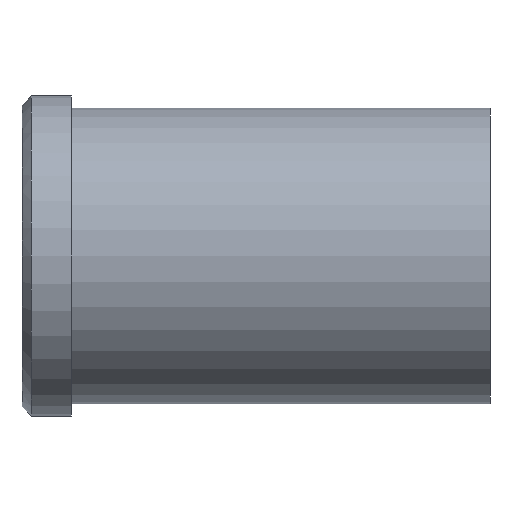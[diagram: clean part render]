
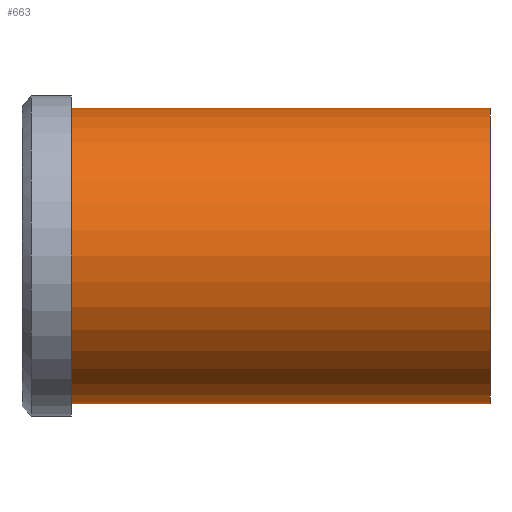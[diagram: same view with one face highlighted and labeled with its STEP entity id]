
A CAD part, front view. The second image highlights one B-rep face of the part: STEP entity #663.
In plain terms, the highlighted cylindrical face has radius 24 mm (diameter 48 mm), a partial arc.
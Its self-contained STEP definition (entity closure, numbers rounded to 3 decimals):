
#501=CARTESIAN_POINT('Vertex',(0.,0.,-24.)) ;
#506=CARTESIAN_POINT('Axis2P3D Location',(0.,0.,0.)) ;
#510=CARTESIAN_POINT('Vertex',(0.,-24.,0.)) ;
#513=CARTESIAN_POINT('Axis2P3D Location',(0.,0.,0.)) ;
#517=CARTESIAN_POINT('Vertex',(0.,0.,24.)) ;
#603=CARTESIAN_POINT('Line Origine',(68.,0.,24.)) ;
#607=CARTESIAN_POINT('Vertex',(68.,0.,24.)) ;
#621=CARTESIAN_POINT('Vertex',(68.,0.,-24.)) ;
#624=CARTESIAN_POINT('Line Origine',(68.,0.,-24.)) ;
#638=CARTESIAN_POINT('Axis2P3D Location',(68.,0.,0.)) ;
#643=CARTESIAN_POINT('Axis2P3D Location',(68.,0.,0.)) ;
#647=CARTESIAN_POINT('Vertex',(68.,-24.,0.)) ;
#650=CARTESIAN_POINT('Axis2P3D Location',(68.,0.,0.)) ;
#507=DIRECTION('Axis2P3D Direction',(1.,0.,-0.)) ;
#514=DIRECTION('Axis2P3D Direction',(1.,0.,-0.)) ;
#604=DIRECTION('Vector Direction',(-1.,0.,0.)) ;
#625=DIRECTION('Vector Direction',(-1.,0.,0.)) ;
#639=DIRECTION('Axis2P3D Direction',(-1.,-0.,-0.)) ;
#640=DIRECTION('Axis2P3D XDirection',(0.,0.,-1.)) ;
#644=DIRECTION('Axis2P3D Direction',(-1.,-0.,-0.)) ;
#651=DIRECTION('Axis2P3D Direction',(-1.,-0.,-0.)) ;
#508=AXIS2_PLACEMENT_3D('Circle Axis2P3D',#506,#507,$) ;
#515=AXIS2_PLACEMENT_3D('Circle Axis2P3D',#513,#514,$) ;
#641=AXIS2_PLACEMENT_3D('Cylinder Axis2P3D',#638,#639,#640) ;
#645=AXIS2_PLACEMENT_3D('Circle Axis2P3D',#643,#644,$) ;
#652=AXIS2_PLACEMENT_3D('Circle Axis2P3D',#650,#651,$) ;
#656=ORIENTED_EDGE('',*,*,#628,.T.) ;
#657=ORIENTED_EDGE('',*,*,#649,.F.) ;
#658=ORIENTED_EDGE('',*,*,#654,.F.) ;
#659=ORIENTED_EDGE('',*,*,#609,.T.) ;
#660=ORIENTED_EDGE('',*,*,#519,.T.) ;
#661=ORIENTED_EDGE('',*,*,#512,.T.) ;
#605=VECTOR('Line Direction',#604,1.) ;
#626=VECTOR('Line Direction',#625,1.) ;
#663=ADVANCED_FACE('353-40X76',(#662),#642,.T.) ;
#509=CIRCLE('generated circle',#508,24.) ;
#516=CIRCLE('generated circle',#515,24.) ;
#646=CIRCLE('generated circle',#645,24.) ;
#653=CIRCLE('generated circle',#652,24.) ;
#642=CYLINDRICAL_SURFACE('generated cylinder',#641,24.) ;
#512=EDGE_CURVE('',#511,#502,#509,.T.) ;
#519=EDGE_CURVE('',#518,#511,#516,.T.) ;
#609=EDGE_CURVE('',#608,#518,#606,.T.) ;
#628=EDGE_CURVE('',#502,#622,#627,.F.) ;
#649=EDGE_CURVE('',#648,#622,#646,.F.) ;
#654=EDGE_CURVE('',#608,#648,#653,.F.) ;
#655=EDGE_LOOP('',(#656,#657,#658,#659,#660,#661)) ;
#662=FACE_OUTER_BOUND('',#655,.T.) ;
#606=LINE('Line',#603,#605) ;
#627=LINE('Line',#624,#626) ;
#502=VERTEX_POINT('',#501) ;
#511=VERTEX_POINT('',#510) ;
#518=VERTEX_POINT('',#517) ;
#608=VERTEX_POINT('',#607) ;
#622=VERTEX_POINT('',#621) ;
#648=VERTEX_POINT('',#647) ;
